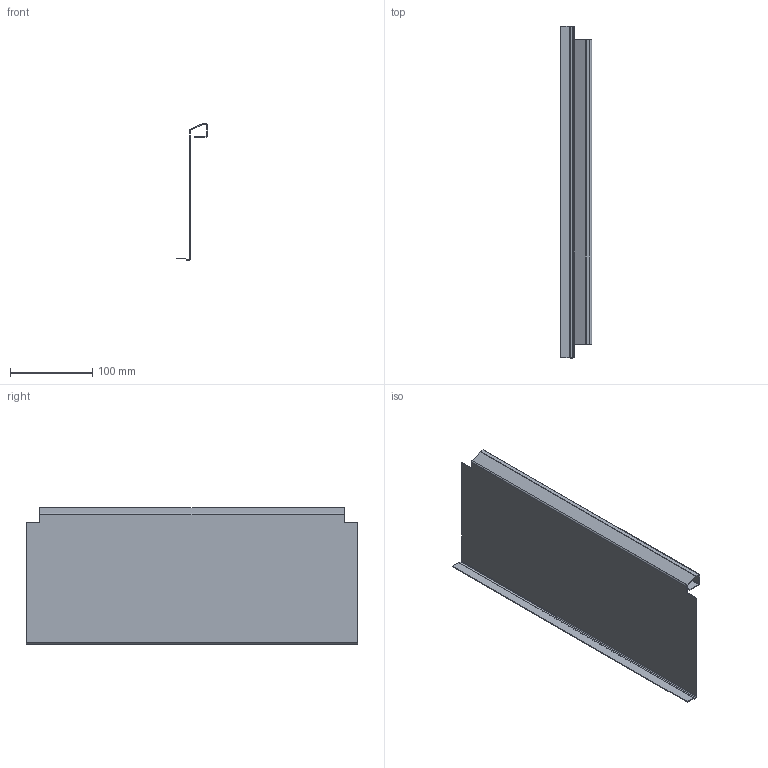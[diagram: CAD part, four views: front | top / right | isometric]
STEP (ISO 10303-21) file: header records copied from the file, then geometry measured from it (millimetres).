
FILE_DESCRIPTION (( 'STEP AP214' ), '1' );
FILE_NAME ('Seitenblech_Sockelauszug.STEP', '2010-09-21T13:00:44', ( 'grass' ), ( '' ), 'SwSTEP 2.0', 'SolidWorks 2010', '' );
FILE_SCHEMA (( 'AUTOMOTIVE_DESIGN' ));
Length unit declared in the file: millimetre
Products named in the file (1): Seitenblech_Sockelauszug
Bounding box: 38 x 403 x 165.5 mm (x, y, z)
Volume: 89059.7 mm3; surface area: 179377.6 mm2
Topology: 1 solids, 1 shells, 34 faces, 96 edges, 64 vertices
Faces by surface type: plane 24, cylinder 10
Entity records: 1134 total; most frequent: CARTESIAN_POINT 195, ORIENTED_EDGE 192, DIRECTION 186, EDGE_CURVE 96, LINE 76, VECTOR 76, VERTEX_POINT 64, AXIS2_PLACEMENT_3D 55
